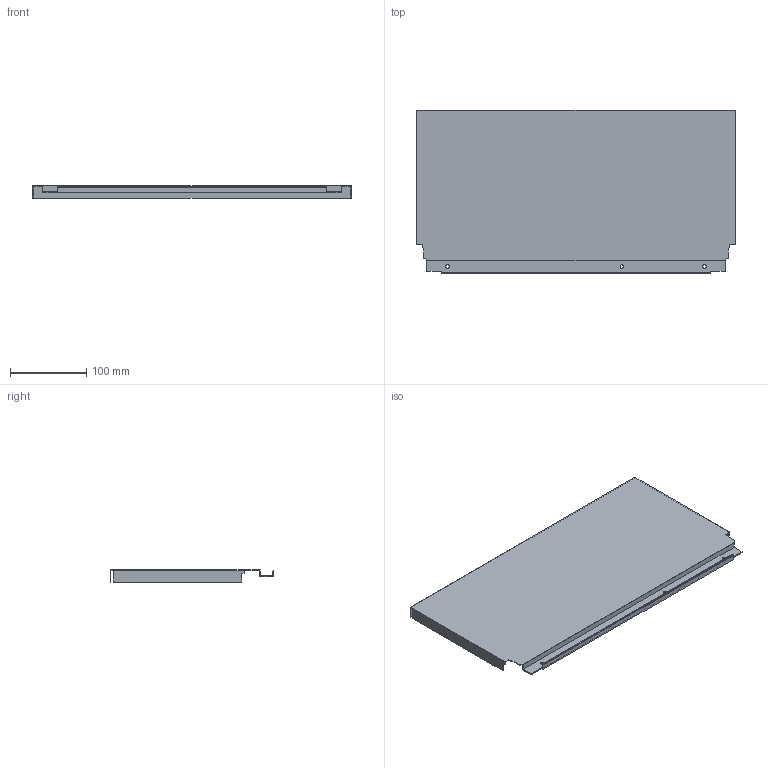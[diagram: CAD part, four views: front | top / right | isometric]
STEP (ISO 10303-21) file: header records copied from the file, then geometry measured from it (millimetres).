
FILE_DESCRIPTION (( 'STEP AP214' ), '1' );
FILE_NAME ('_DWD_XP Stahlrückwand_H214_KAB500_S16.step', '2010-07-08T13:02:47', ( 'grass' ), ( '' ), 'SwSTEP 2.0', 'SolidWorks 2010', '' );
FILE_SCHEMA (( 'AUTOMOTIVE_DESIGN' ));
Length unit declared in the file: millimetre
Products named in the file (1): _DWD_XP Stahlrückwand_H214_KAB500_S16
Bounding box: 417 x 214.58 x 16 mm (x, y, z)
Volume: 100258.1 mm3; surface area: 212273.5 mm2
Topology: 1 solids, 1 shells, 46 faces, 132 edges, 88 vertices
Faces by surface type: plane 40, cylinder 6
Entity records: 1534 total; most frequent: CARTESIAN_POINT 267, ORIENTED_EDGE 264, DIRECTION 238, EDGE_CURVE 132, VECTOR 120, LINE 120, VERTEX_POINT 88, AXIS2_PLACEMENT_3D 59
